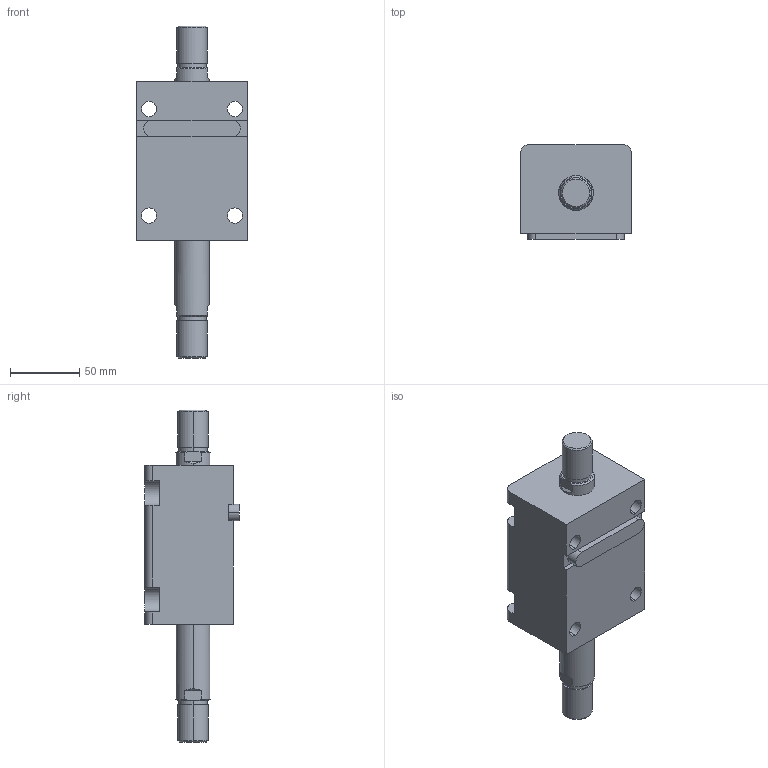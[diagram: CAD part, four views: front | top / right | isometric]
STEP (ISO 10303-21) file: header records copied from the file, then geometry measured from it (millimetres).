
FILE_DESCRIPTION (( 'STEP AP203' ), '1' );
FILE_NAME ('HTB-LW40-45W.STEP', '2019-10-09T07:55:52', ( '微软用户' ), ( '微软中国' ), 'SwSTEP 2.0', 'SolidWorks 2012', '' );
FILE_SCHEMA (( 'CONFIG_CONTROL_DESIGN' ));
Length unit declared in the file: millimetre
Products named in the file (4): HTB-LW40-45W; HTB-LA40-瑩; HTB-LW40-45W活塞杆; HTB-LW40-45掛极
Assembly tree (3 placements, depth 2):
  HTB-LW40-45W
    HTB-LW40-45掛极
    HTB-LW40-45W活塞杆
    HTB-LA40-瑩
Bounding box: 80 x 68.5 x 240 mm (x, y, z)
Volume: 575067.5 mm3; surface area: 88702.2 mm2
Topology: 3 solids, 3 shells, 113 faces, 273 edges, 178 vertices
Faces by surface type: plane 48, cylinder 45, cone 12, torus 8
Entity records: 3779 total; most frequent: CARTESIAN_POINT 622, DIRECTION 617, ORIENTED_EDGE 546, EDGE_CURVE 273, AXIS2_PLACEMENT_3D 241, VERTEX_POINT 178, EDGE_LOOP 135, LINE 135
